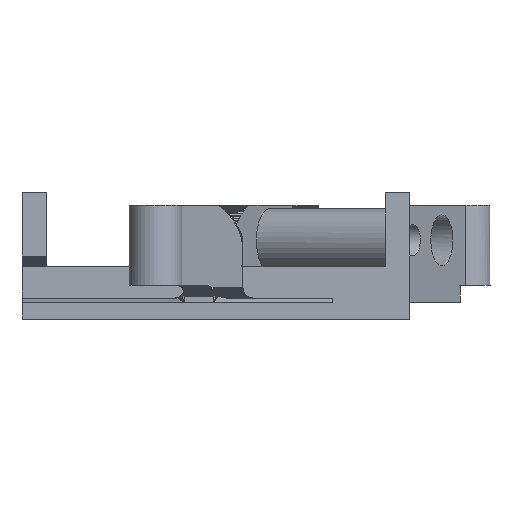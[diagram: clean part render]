
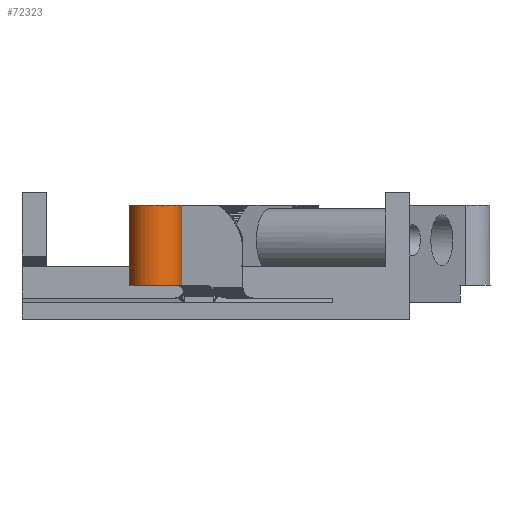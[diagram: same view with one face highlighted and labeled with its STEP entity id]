
A CAD part, left-side view. The second image highlights one B-rep face of the part: STEP entity #72323.
In plain terms, the highlighted cylindrical face has radius 2.5 mm (diameter 5 mm), a partial arc.
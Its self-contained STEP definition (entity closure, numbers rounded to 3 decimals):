
#8427 = PLANE('',#8428);
#8428 = AXIS2_PLACEMENT_3D('',#8429,#8430,#8431);
#8429 = CARTESIAN_POINT('',(213.243,-8.856,
    5.973));
#8430 = DIRECTION('',(-0.561,-0.828,
    0.));
#8431 = DIRECTION('',(0.,0.,1.));
#8707 = PLANE('',#8708);
#8708 = AXIS2_PLACEMENT_3D('',#8709,#8710,#8711);
#8709 = CARTESIAN_POINT('',(213.208,-6.054,
    5.882));
#8710 = DIRECTION('',(0.561,0.828,0.)
  );
#8711 = DIRECTION('',(0.,0.,-1.));
#17228 = PLANE('',#17229);
#17229 = AXIS2_PLACEMENT_3D('',#17230,#17231,#17232);
#17230 = CARTESIAN_POINT('',(205.57,-2.54,
    10.8));
#17231 = DIRECTION('',(0.,0.,1.));
#17232 = DIRECTION('',(0.,1.,0.));
#56729 = VERTEX_POINT('',#56730);
#56730 = CARTESIAN_POINT('',(207.069,-4.676,
    10.8));
#56751 = EDGE_CURVE('',#56729,#56752,#56754,.T.);
#56752 = VERTEX_POINT('',#56753);
#56753 = CARTESIAN_POINT('',(207.069,-4.676,
    3.2));
#56754 = SURFACE_CURVE('',#56755,(#56759,#56766),.PCURVE_S1.);
#56755 = ( BOUNDED_CURVE() B_SPLINE_CURVE(2,(#56756,#56757,#56758),
.UNSPECIFIED.,.F.,.F.) B_SPLINE_CURVE_WITH_KNOTS((3,3),(0.,1.),
.PIECEWISE_BEZIER_KNOTS.) CURVE() GEOMETRIC_REPRESENTATION_ITEM() 
RATIONAL_B_SPLINE_CURVE((1.,1.,1.)) REPRESENTATION_ITEM('') );
#56756 = CARTESIAN_POINT('',(207.069,-4.676,
    10.8));
#56757 = CARTESIAN_POINT('',(207.069,-4.676,
    7.));
#56758 = CARTESIAN_POINT('',(207.069,-4.676,
    3.2));
#56759 = PCURVE('',#8427,#56760);
#56760 = DEFINITIONAL_REPRESENTATION('',(#56761),#56765);
#56761 = ( BOUNDED_CURVE() B_SPLINE_CURVE(2,(#56762,#56763,#56764),
.UNSPECIFIED.,.F.,.F.) B_SPLINE_CURVE_WITH_KNOTS((3,3),(0.,1.),
.PIECEWISE_BEZIER_KNOTS.) CURVE() GEOMETRIC_REPRESENTATION_ITEM() 
RATIONAL_B_SPLINE_CURVE((1.,1.,1.)) REPRESENTATION_ITEM('') );
#56762 = CARTESIAN_POINT('',(4.827,7.456));
#56763 = CARTESIAN_POINT('',(1.027,7.456));
#56764 = CARTESIAN_POINT('',(-2.773,7.456));
#56765 = ( GEOMETRIC_REPRESENTATION_CONTEXT(2) 
PARAMETRIC_REPRESENTATION_CONTEXT() REPRESENTATION_CONTEXT('2D SPACE',''
  ) );
#56766 = PCURVE('',#56767,#56772);
#56767 = CYLINDRICAL_SURFACE('',#56768,2.5);
#56768 = AXIS2_PLACEMENT_3D('',#56769,#56770,#56771);
#56769 = CARTESIAN_POINT('',(205.682,-2.596,7.));
#56770 = DIRECTION('',(0.,0.,1.));
#56771 = DIRECTION('',(0.876,-0.482,0.));
#56772 = DEFINITIONAL_REPRESENTATION('',(#56773),#56780);
#56773 = B_SPLINE_CURVE_WITH_KNOTS('',5,(#56774,#56775,#56776,#56777,
    #56778,#56779),.UNSPECIFIED.,.F.,.F.,(6,6),(0.,1.),
  .PIECEWISE_BEZIER_KNOTS.);
#56774 = CARTESIAN_POINT('',(5.803,3.8));
#56775 = CARTESIAN_POINT('',(5.803,2.28));
#56776 = CARTESIAN_POINT('',(5.803,0.76));
#56777 = CARTESIAN_POINT('',(5.803,-0.76));
#56778 = CARTESIAN_POINT('',(5.803,-2.28));
#56779 = CARTESIAN_POINT('',(5.803,-3.8));
#56780 = ( GEOMETRIC_REPRESENTATION_CONTEXT(2) 
PARAMETRIC_REPRESENTATION_CONTEXT() REPRESENTATION_CONTEXT('2D SPACE',''
  ) );
#56798 = PLANE('',#56799);
#56799 = AXIS2_PLACEMENT_3D('',#56800,#56801,#56802);
#56800 = CARTESIAN_POINT('',(205.557,-2.531,
    3.2));
#56801 = DIRECTION('',(-0.,-0.,-1.));
#56802 = DIRECTION('',(0.,-1.,0.));
#60928 = VERTEX_POINT('',#60929);
#60929 = CARTESIAN_POINT('',(208.181,-2.652,
    3.2));
#60992 = EDGE_CURVE('',#56752,#60928,#60993,.T.);
#60993 = SURFACE_CURVE('',#60994,(#60999,#61006),.PCURVE_S1.);
#60994 = ELLIPSE('',#60995,2.5,2.5);
#60995 = AXIS2_PLACEMENT_3D('',#60996,#60997,#60998);
#60996 = CARTESIAN_POINT('',(205.682,-2.596,
    3.2));
#60997 = DIRECTION('',(0.,0.,-1.));
#60998 = DIRECTION('',(0.482,0.876,0.));
#60999 = PCURVE('',#56798,#61000);
#61000 = DEFINITIONAL_REPRESENTATION('',(#61001),#61005);
#61001 = ELLIPSE('',#61002,2.5,2.5);
#61002 = AXIS2_PLACEMENT_2D('',#61003,#61004);
#61003 = CARTESIAN_POINT('',(0.065,-0.125));
#61004 = DIRECTION('',(-0.876,-0.482));
#61005 = ( GEOMETRIC_REPRESENTATION_CONTEXT(2) 
PARAMETRIC_REPRESENTATION_CONTEXT() REPRESENTATION_CONTEXT('2D SPACE',''
  ) );
#61006 = PCURVE('',#56767,#61007);
#61007 = DEFINITIONAL_REPRESENTATION('',(#61008),#61015);
#61008 = B_SPLINE_CURVE_WITH_KNOTS('',5,(#61009,#61010,#61011,#61012,
    #61013,#61014),.UNSPECIFIED.,.F.,.F.,(6,6),(2.051,
    7.374),.PIECEWISE_BEZIER_KNOTS.);
#61009 = CARTESIAN_POINT('',(5.803,-3.8));
#61010 = CARTESIAN_POINT('',(4.738,-3.8));
#61011 = CARTESIAN_POINT('',(3.674,-3.8));
#61012 = CARTESIAN_POINT('',(2.609,-3.8));
#61013 = CARTESIAN_POINT('',(1.545,-3.8));
#61014 = CARTESIAN_POINT('',(0.48,-3.8));
#61015 = ( GEOMETRIC_REPRESENTATION_CONTEXT(2) 
PARAMETRIC_REPRESENTATION_CONTEXT() REPRESENTATION_CONTEXT('2D SPACE',''
  ) );
#72323 = ADVANCED_FACE('',(#72324),#56767,.T.);
#72324 = FACE_BOUND('',#72325,.T.);
#72325 = EDGE_LOOP('',(#72326,#72352,#72353,#72354));
#72326 = ORIENTED_EDGE('',*,*,#72327,.T.);
#72327 = EDGE_CURVE('',#72328,#60928,#72330,.T.);
#72328 = VERTEX_POINT('',#72329);
#72329 = CARTESIAN_POINT('',(208.181,-2.652,
    10.8));
#72330 = SURFACE_CURVE('',#72331,(#72335,#72345),.PCURVE_S1.);
#72331 = ( BOUNDED_CURVE() B_SPLINE_CURVE(2,(#72332,#72333,#72334),
.UNSPECIFIED.,.F.,.F.) B_SPLINE_CURVE_WITH_KNOTS((3,3),(0.,1.),
.PIECEWISE_BEZIER_KNOTS.) CURVE() GEOMETRIC_REPRESENTATION_ITEM() 
RATIONAL_B_SPLINE_CURVE((1.,1.,1.)) REPRESENTATION_ITEM('') );
#72332 = CARTESIAN_POINT('',(208.181,-2.652,
    10.8));
#72333 = CARTESIAN_POINT('',(208.181,-2.652,
    7.));
#72334 = CARTESIAN_POINT('',(208.181,-2.652,
    3.2));
#72335 = PCURVE('',#56767,#72336);
#72336 = DEFINITIONAL_REPRESENTATION('',(#72337),#72344);
#72337 = B_SPLINE_CURVE_WITH_KNOTS('',5,(#72338,#72339,#72340,#72341,
    #72342,#72343),.UNSPECIFIED.,.F.,.F.,(6,6),(0.,1.),
  .PIECEWISE_BEZIER_KNOTS.);
#72338 = CARTESIAN_POINT('',(0.48,3.8));
#72339 = CARTESIAN_POINT('',(0.48,2.28));
#72340 = CARTESIAN_POINT('',(0.48,0.76));
#72341 = CARTESIAN_POINT('',(0.48,-0.76));
#72342 = CARTESIAN_POINT('',(0.48,-2.28));
#72343 = CARTESIAN_POINT('',(0.48,-3.8));
#72344 = ( GEOMETRIC_REPRESENTATION_CONTEXT(2) 
PARAMETRIC_REPRESENTATION_CONTEXT() REPRESENTATION_CONTEXT('2D SPACE',''
  ) );
#72345 = PCURVE('',#8707,#72346);
#72346 = DEFINITIONAL_REPRESENTATION('',(#72347),#72351);
#72347 = ( BOUNDED_CURVE() B_SPLINE_CURVE(2,(#72348,#72349,#72350),
.UNSPECIFIED.,.F.,.F.) B_SPLINE_CURVE_WITH_KNOTS((3,3),(0.,1.),
.PIECEWISE_BEZIER_KNOTS.) CURVE() GEOMETRIC_REPRESENTATION_ITEM() 
RATIONAL_B_SPLINE_CURVE((1.,1.,1.)) REPRESENTATION_ITEM('') );
#72348 = CARTESIAN_POINT('',(-4.918,6.07));
#72349 = CARTESIAN_POINT('',(-1.118,6.07));
#72350 = CARTESIAN_POINT('',(2.682,6.07));
#72351 = ( GEOMETRIC_REPRESENTATION_CONTEXT(2) 
PARAMETRIC_REPRESENTATION_CONTEXT() REPRESENTATION_CONTEXT('2D SPACE',''
  ) );
#72352 = ORIENTED_EDGE('',*,*,#60992,.F.);
#72353 = ORIENTED_EDGE('',*,*,#56751,.F.);
#72354 = ORIENTED_EDGE('',*,*,#72355,.T.);
#72355 = EDGE_CURVE('',#56729,#72328,#72356,.T.);
#72356 = SURFACE_CURVE('',#72357,(#72362,#72372),.PCURVE_S1.);
#72357 = ELLIPSE('',#72358,2.5,2.5);
#72358 = AXIS2_PLACEMENT_3D('',#72359,#72360,#72361);
#72359 = CARTESIAN_POINT('',(205.682,-2.596,
    10.8));
#72360 = DIRECTION('',(0.,0.,-1.));
#72361 = DIRECTION('',(0.482,0.876,0.));
#72362 = PCURVE('',#56767,#72363);
#72363 = DEFINITIONAL_REPRESENTATION('',(#72364),#72371);
#72364 = B_SPLINE_CURVE_WITH_KNOTS('',5,(#72365,#72366,#72367,#72368,
    #72369,#72370),.UNSPECIFIED.,.F.,.F.,(6,6),(2.051,
    7.374),.PIECEWISE_BEZIER_KNOTS.);
#72365 = CARTESIAN_POINT('',(5.803,3.8));
#72366 = CARTESIAN_POINT('',(4.738,3.8));
#72367 = CARTESIAN_POINT('',(3.674,3.8));
#72368 = CARTESIAN_POINT('',(2.609,3.8));
#72369 = CARTESIAN_POINT('',(1.545,3.8));
#72370 = CARTESIAN_POINT('',(0.48,3.8));
#72371 = ( GEOMETRIC_REPRESENTATION_CONTEXT(2) 
PARAMETRIC_REPRESENTATION_CONTEXT() REPRESENTATION_CONTEXT('2D SPACE',''
  ) );
#72372 = PCURVE('',#17228,#72373);
#72373 = DEFINITIONAL_REPRESENTATION('',(#72374),#72382);
#72374 = ( BOUNDED_CURVE() B_SPLINE_CURVE(2,(#72375,#72376,#72377,#72378
    ,#72379,#72380,#72381),.UNSPECIFIED.,.T.,.F.) 
B_SPLINE_CURVE_WITH_KNOTS((1,2,2,2,2,1),(-2.094,0.,
    2.094,4.189,6.283,8.378),
.UNSPECIFIED.) CURVE() GEOMETRIC_REPRESENTATION_ITEM() 
RATIONAL_B_SPLINE_CURVE((1.,0.5,1.,0.5,1.,0.5,1.)) REPRESENTATION_ITEM(
  '') );
#72375 = CARTESIAN_POINT('',(2.135,-1.315));
#72376 = CARTESIAN_POINT('',(0.05,-5.111));
#72377 = CARTESIAN_POINT('',(-2.194,-1.407));
#72378 = CARTESIAN_POINT('',(-4.439,2.296));
#72379 = CARTESIAN_POINT('',(-0.109,2.388));
#72380 = CARTESIAN_POINT('',(4.22,2.48));
#72381 = CARTESIAN_POINT('',(2.135,-1.315));
#72382 = ( GEOMETRIC_REPRESENTATION_CONTEXT(2) 
PARAMETRIC_REPRESENTATION_CONTEXT() REPRESENTATION_CONTEXT('2D SPACE',''
  ) );
